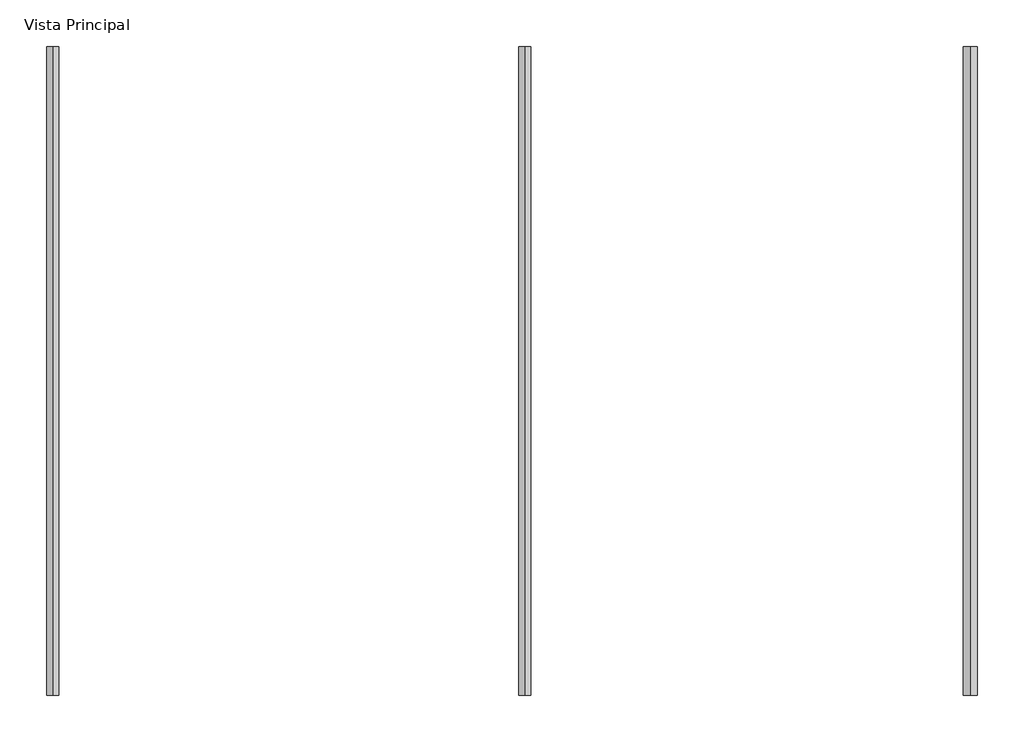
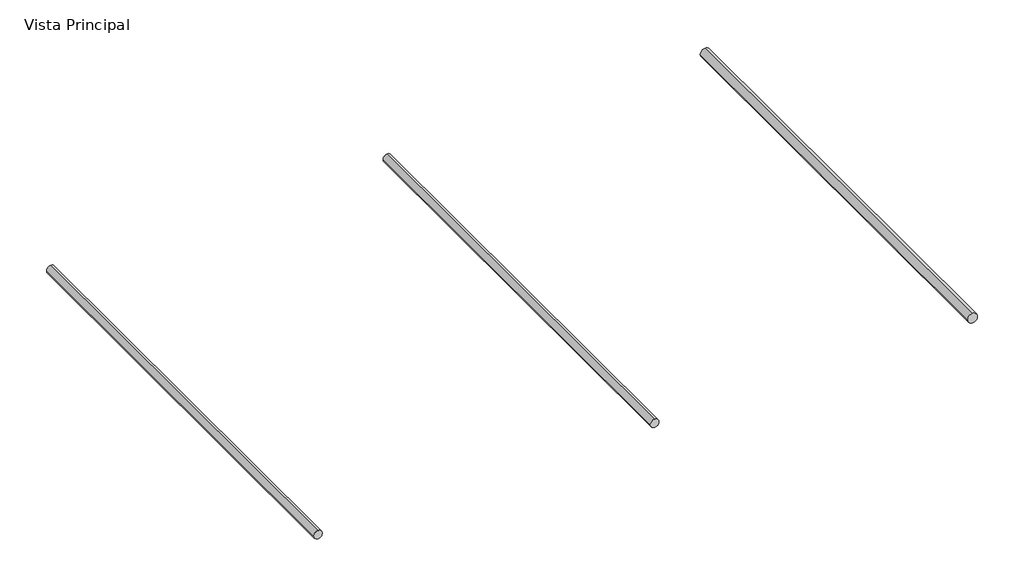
# One storey, incomplete: 3 pipe segments.
"""IFC4 building model written with IfcOpenShell, lengths in millimetres."""

from ifc_helpers import new_model, si_unit, point, frame, frame_2d, origin, place, context, project, spatial, circle_curve, trimmed, segment, composite_curve, outline, extrude, element, save

model = new_model("IFC4")

# Units and contexts
model_context = context("Model", 3, world=origin())
ifc_project = project(units=[si_unit("LENGTHUNIT", "METRE", prefix="MILLI")], contexts=[model_context])

# Site, building, storey
site = spatial("IfcSite", under=ifc_project)
building = spatial("IfcBuilding", under=site)
storey = spatial("IfcBuildingStorey", under=building, Name="Vista Principal", Elevation=0.0)

# Pipe segments
placement = place(None, origin())
element("IfcPipeSegment", 1, ObjectType="AmancoWavin_Tuberías_CPVCCédula80 ½\" - 8\" (6.1 mts)", at=placement, inside=storey, context=model_context, shape_type="SweptSolid", body=[
    extrude(outline(composite_curve([segment(trimmed(circle_curve(frame_2d((0.0, 2533.7504681)), 16.669), [point((0.0, 2517.0814681))], [point((-16.669, 2533.7504681))], False, "CARTESIAN"), True, "CONTINUOUS"), segment(trimmed(circle_curve(frame_2d((0.0, 2533.7504681)), 16.669), [point((-16.669, 2533.7504681))], [point((0.0, 2550.4194681))], False, "CARTESIAN"), True, "CONTINUOUS"), segment(trimmed(circle_curve(frame_2d((0.0, 2533.7504681)), 16.669), [point((0.0, 2550.4194681))], [point((16.669, 2533.7504681))], False, "CARTESIAN"), True, "CONTINUOUS"), segment(trimmed(circle_curve(frame_2d((0.0, 2533.7504681)), 16.669), [point((16.669, 2533.7504681))], [point((0.0, 2517.0814681))], False, "CARTESIAN"), True, "CONTINUOUS")], self_intersect=False)), frame((0.0, -110.6182436, 0.0), z_axis=(0.0, 1.0, 0.0), x_axis=(0.0, 0.0, 1.0)), (0.0, 0.0, 1.0), 1540.0),
])
element("IfcPipeSegment", 2, ObjectType="AmancoWavin_Tuberías_CPVCRD11DuralónPlatinum ½\" - 2\" (3.05 mts - 6.10 mts)", at=placement, inside=storey, context=model_context, shape_type="SweptSolid", body=[
    extrude(outline(composite_curve([segment(trimmed(circle_curve(frame_2d((0.0, 355.9931473)), 14.2875), [point((0.0, 341.7056473))], [point((-14.2875, 355.9931473))], False, "CARTESIAN"), True, "CONTINUOUS"), segment(trimmed(circle_curve(frame_2d((0.0, 355.9931473)), 14.2875), [point((-14.2875, 355.9931473))], [point((0.0, 370.2806473))], False, "CARTESIAN"), True, "CONTINUOUS"), segment(trimmed(circle_curve(frame_2d((0.0, 355.9931473)), 14.2875), [point((0.0, 370.2806473))], [point((14.2875, 355.9931473))], False, "CARTESIAN"), True, "CONTINUOUS"), segment(trimmed(circle_curve(frame_2d((0.0, 355.9931473)), 14.2875), [point((14.2875, 355.9931473))], [point((0.0, 341.7056473))], False, "CARTESIAN"), True, "CONTINUOUS")], self_intersect=False)), frame((0.0, -110.6182436, 0.0), z_axis=(0.0, 1.0, 0.0), x_axis=(0.0, 0.0, 1.0)), (0.0, 0.0, 1.0), 1540.0),
])
element("IfcPipeSegment", 3, ObjectType="AmancoWavin_Tuberías_CPVCRD13.5DuralónPlatinum ½\" - 1\" (3.05 mts - 6.10 mts)", at=placement, inside=storey, context=model_context, shape_type="SweptSolid", body=[
    extrude(outline(composite_curve([segment(trimmed(circle_curve(frame_2d((0.0, 1475.9931473)), 14.2875), [point((0.0, 1461.7056473))], [point((-14.2875, 1475.9931473))], False, "CARTESIAN"), True, "CONTINUOUS"), segment(trimmed(circle_curve(frame_2d((0.0, 1475.9931473)), 14.2875), [point((-14.2875, 1475.9931473))], [point((0.0, 1490.2806473))], False, "CARTESIAN"), True, "CONTINUOUS"), segment(trimmed(circle_curve(frame_2d((0.0, 1475.9931473)), 14.2875), [point((0.0, 1490.2806473))], [point((14.2875, 1475.9931473))], False, "CARTESIAN"), True, "CONTINUOUS"), segment(trimmed(circle_curve(frame_2d((0.0, 1475.9931473)), 14.2875), [point((14.2875, 1475.9931473))], [point((0.0, 1461.7056473))], False, "CARTESIAN"), True, "CONTINUOUS")], self_intersect=False)), frame((0.0, -110.6182436, 0.0), z_axis=(0.0, 1.0, 0.0), x_axis=(0.0, 0.0, 1.0)), (0.0, 0.0, 1.0), 1540.0),
])

save(model, "model.ifc")
